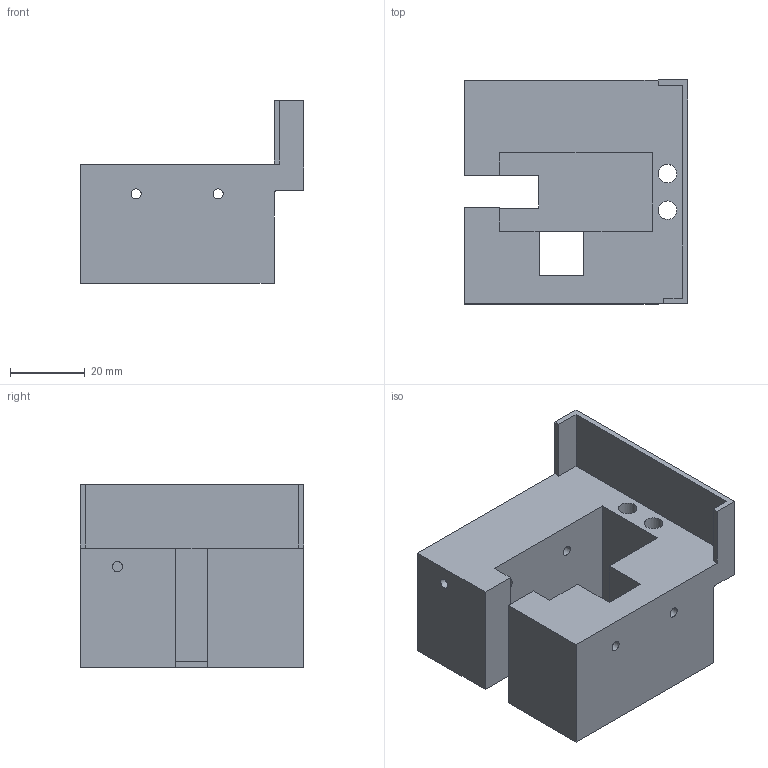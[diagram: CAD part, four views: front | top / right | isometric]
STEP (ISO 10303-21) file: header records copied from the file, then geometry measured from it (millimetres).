
FILE_DESCRIPTION(/* description */ ('STEP AP242 Edition 2','CAx-IF Rec.Pracs.---Representation and Presentation of Product Manufacturing Information (PMI)---4.0---2014-10-13','CAx-IF Rec.Pracs.---3D Tessellated Geometry---0.4---2014-09-14','2;1','CAx-IF Rec.Pracs.---User Defined Attributes---1.5---2016-08-15'),/* implementation_level */ '2;1');
FILE_NAME(/* name */ 'Arm Parts - Dof2',/* time_stamp */ '2026-04-22T00:04:14Z',/* author */ (''),/* organization */ (''),/* preprocessor_version */ 'ST-DEVELOPER v20',/* originating_system */ 'ONSHAPE BY PTC INC, 1.213',/* authorisation */ ' ');
FILE_SCHEMA (('AP242_MANAGED_MODEL_BASED_3D_ENGINEERING_MIM_LF { 1 0 10303 442 3 1 4 }'));
Length unit declared in the file: metre
Products named in the file (1): Dof2
Bounding box: 60 x 60 x 49 mm (x, y, z)
Volume: 70319.5 mm3; surface area: 22251.1 mm2
Topology: 1 solids, 1 shells, 43 faces, 122 edges, 80 vertices
Faces by surface type: plane 31, cylinder 12
Full cylindrical faces by diameter (mm): 2.7 x7, 5 x2
Entity records: 1383 total; most frequent: CARTESIAN_POINT 249, ORIENTED_EDGE 222, DIRECTION 215, EDGE_CURVE 111, LINE 87, VECTOR 87, VERTEX_POINT 78, EDGE_LOOP 67
